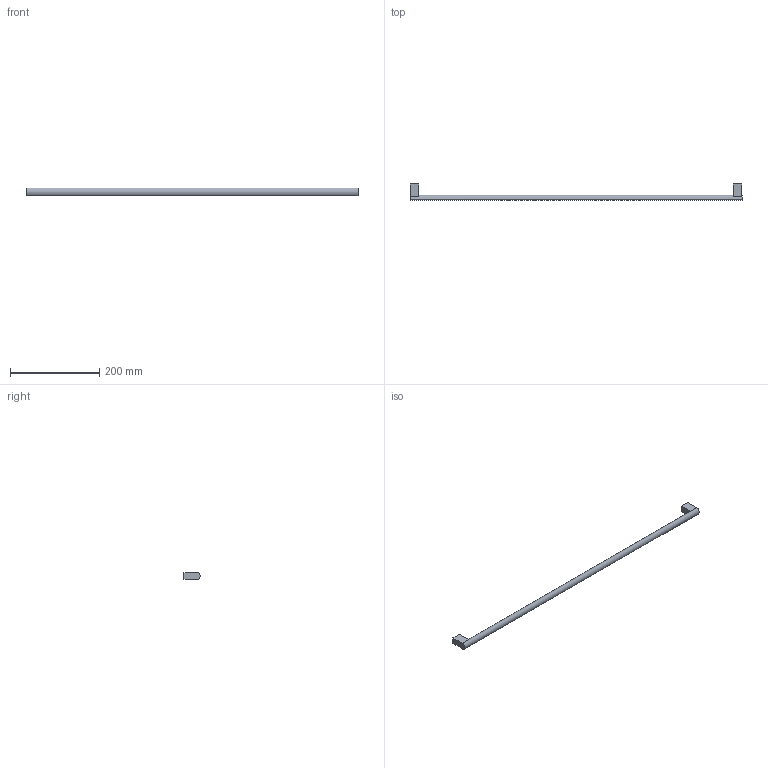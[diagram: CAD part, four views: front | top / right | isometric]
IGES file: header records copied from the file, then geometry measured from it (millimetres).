
Start section: Data from Parasolid IGES Translator 20.0.26, Copyright(c) 2006 Siemens P LM Software. All Rights Reserved.
Global section: file name: 115363.igs; native system: By Siemens PLM Incorporated; preprocessor: XPlus GENERIC/IGES 20.0.26; author: Noname; organization: Noname; date: 20230220.164143; units: millimetre
Bounding box: 744 x 35.96 x 16 mm (x, y, z)
Surface area: 36035.4 mm2 (no closed solid volume)
Topology: 0 solids, 0 shells, 22 faces, 102 edges, 100 vertices
Faces by surface type: extrusion 17, revolution 5
